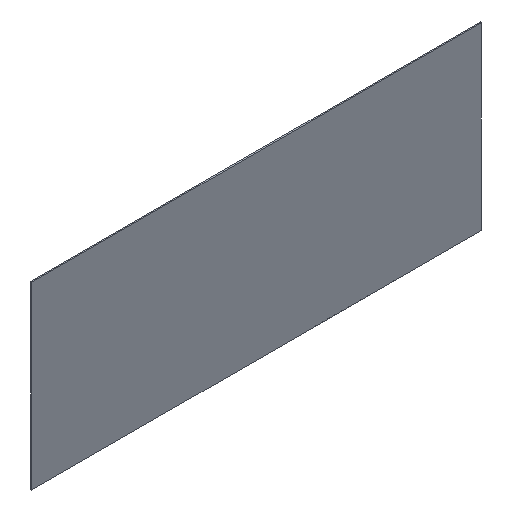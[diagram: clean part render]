
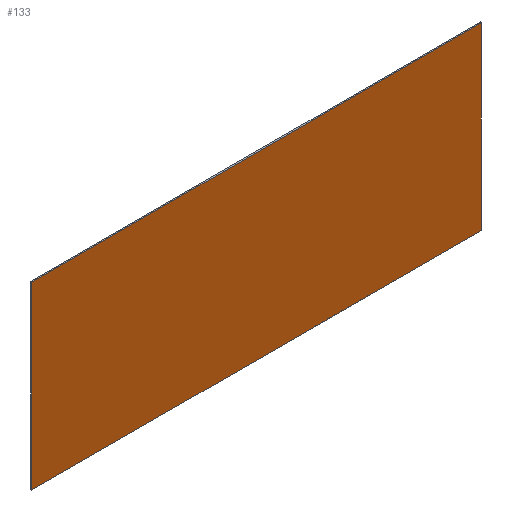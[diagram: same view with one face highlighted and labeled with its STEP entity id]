
A CAD part, isometric view. The second image highlights one B-rep face of the part: STEP entity #133.
In plain terms, the highlighted planar face has unit normal (0, -1, 0).
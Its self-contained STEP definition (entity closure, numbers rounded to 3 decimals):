
#21 = EDGE_CURVE('',#22,#24,#26,.T.);
#22 = VERTEX_POINT('',#23);
#23 = CARTESIAN_POINT('',(-25.,13.2,10.));
#24 = VERTEX_POINT('',#25);
#25 = CARTESIAN_POINT('',(-25.,13.2,-10.));
#26 = SURFACE_CURVE('',#27,(#31,#43),.PCURVE_S1.);
#27 = LINE('',#28,#29);
#28 = CARTESIAN_POINT('',(-25.,13.2,0.));
#29 = VECTOR('',#30,1.);
#30 = DIRECTION('',(0.,0.,-1.));
#31 = PCURVE('',#32,#37);
#32 = PLANE('',#33);
#33 = AXIS2_PLACEMENT_3D('',#34,#35,#36);
#34 = CARTESIAN_POINT('',(-25.,13.2,20.));
#35 = DIRECTION('',(-1.,0.,-0.));
#36 = DIRECTION('',(0.,0.,-1.));
#37 = DEFINITIONAL_REPRESENTATION('',(#38),#42);
#38 = LINE('',#39,#40);
#39 = CARTESIAN_POINT('',(20.,0.));
#40 = VECTOR('',#41,1.);
#41 = DIRECTION('',(1.,0.));
#42 = ( GEOMETRIC_REPRESENTATION_CONTEXT(2) 
PARAMETRIC_REPRESENTATION_CONTEXT() REPRESENTATION_CONTEXT('2D SPACE',''
  ) );
#43 = PCURVE('',#44,#49);
#44 = PLANE('',#45);
#45 = AXIS2_PLACEMENT_3D('',#46,#47,#48);
#46 = CARTESIAN_POINT('',(0.,13.2,0.));
#47 = DIRECTION('',(0.,1.,0.));
#48 = DIRECTION('',(1.,0.,0.));
#49 = DEFINITIONAL_REPRESENTATION('',(#50),#54);
#50 = LINE('',#51,#52);
#51 = CARTESIAN_POINT('',(-25.,0.));
#52 = VECTOR('',#53,1.);
#53 = DIRECTION('',(0.,1.));
#54 = ( GEOMETRIC_REPRESENTATION_CONTEXT(2) 
PARAMETRIC_REPRESENTATION_CONTEXT() REPRESENTATION_CONTEXT('2D SPACE',''
  ) );
#71 = PLANE('',#72);
#72 = AXIS2_PLACEMENT_3D('',#73,#74,#75);
#73 = CARTESIAN_POINT('',(-28.,12.5,10.));
#74 = DIRECTION('',(0.,0.,1.));
#75 = DIRECTION('',(1.,0.,0.));
#123 = PLANE('',#124);
#124 = AXIS2_PLACEMENT_3D('',#125,#126,#127);
#125 = CARTESIAN_POINT('',(-28.,12.5,-10.));
#126 = DIRECTION('',(0.,0.,1.));
#127 = DIRECTION('',(1.,0.,0.));
#133 = ADVANCED_FACE('',(#134),#44,.F.);
#134 = FACE_BOUND('',#135,.F.);
#135 = EDGE_LOOP('',(#136,#137,#158,#186));
#136 = ORIENTED_EDGE('',*,*,#21,.F.);
#137 = ORIENTED_EDGE('',*,*,#138,.T.);
#138 = EDGE_CURVE('',#22,#139,#141,.T.);
#139 = VERTEX_POINT('',#140);
#140 = CARTESIAN_POINT('',(25.,13.2,10.));
#141 = SURFACE_CURVE('',#142,(#146,#152),.PCURVE_S1.);
#142 = LINE('',#143,#144);
#143 = CARTESIAN_POINT('',(-14.,13.2,10.));
#144 = VECTOR('',#145,1.);
#145 = DIRECTION('',(1.,0.,0.));
#146 = PCURVE('',#44,#147);
#147 = DEFINITIONAL_REPRESENTATION('',(#148),#151);
#148 = B_SPLINE_CURVE_WITH_KNOTS('',1,(#149,#150),.UNSPECIFIED.,.F.,.F.,
  (2,2),(-11.,39.),.PIECEWISE_BEZIER_KNOTS.);
#149 = CARTESIAN_POINT('',(-25.,-10.));
#150 = CARTESIAN_POINT('',(25.,-10.));
#151 = ( GEOMETRIC_REPRESENTATION_CONTEXT(2) 
PARAMETRIC_REPRESENTATION_CONTEXT() REPRESENTATION_CONTEXT('2D SPACE',''
  ) );
#152 = PCURVE('',#71,#153);
#153 = DEFINITIONAL_REPRESENTATION('',(#154),#157);
#154 = B_SPLINE_CURVE_WITH_KNOTS('',1,(#155,#156),.UNSPECIFIED.,.F.,.F.,
  (2,2),(-11.,39.),.PIECEWISE_BEZIER_KNOTS.);
#155 = CARTESIAN_POINT('',(3.,0.7));
#156 = CARTESIAN_POINT('',(53.,0.7));
#157 = ( GEOMETRIC_REPRESENTATION_CONTEXT(2) 
PARAMETRIC_REPRESENTATION_CONTEXT() REPRESENTATION_CONTEXT('2D SPACE',''
  ) );
#158 = ORIENTED_EDGE('',*,*,#159,.T.);
#159 = EDGE_CURVE('',#139,#160,#162,.T.);
#160 = VERTEX_POINT('',#161);
#161 = CARTESIAN_POINT('',(25.,13.2,-10.));
#162 = SURFACE_CURVE('',#163,(#167,#174),.PCURVE_S1.);
#163 = LINE('',#164,#165);
#164 = CARTESIAN_POINT('',(25.,13.2,0.));
#165 = VECTOR('',#166,1.);
#166 = DIRECTION('',(0.,0.,-1.));
#167 = PCURVE('',#44,#168);
#168 = DEFINITIONAL_REPRESENTATION('',(#169),#173);
#169 = LINE('',#170,#171);
#170 = CARTESIAN_POINT('',(25.,0.));
#171 = VECTOR('',#172,1.);
#172 = DIRECTION('',(0.,1.));
#173 = ( GEOMETRIC_REPRESENTATION_CONTEXT(2) 
PARAMETRIC_REPRESENTATION_CONTEXT() REPRESENTATION_CONTEXT('2D SPACE',''
  ) );
#174 = PCURVE('',#175,#180);
#175 = PLANE('',#176);
#176 = AXIS2_PLACEMENT_3D('',#177,#178,#179);
#177 = CARTESIAN_POINT('',(25.,13.2,20.));
#178 = DIRECTION('',(-1.,0.,-0.));
#179 = DIRECTION('',(0.,0.,-1.));
#180 = DEFINITIONAL_REPRESENTATION('',(#181),#185);
#181 = LINE('',#182,#183);
#182 = CARTESIAN_POINT('',(20.,0.));
#183 = VECTOR('',#184,1.);
#184 = DIRECTION('',(1.,0.));
#185 = ( GEOMETRIC_REPRESENTATION_CONTEXT(2) 
PARAMETRIC_REPRESENTATION_CONTEXT() REPRESENTATION_CONTEXT('2D SPACE',''
  ) );
#186 = ORIENTED_EDGE('',*,*,#187,.F.);
#187 = EDGE_CURVE('',#24,#160,#188,.T.);
#188 = SURFACE_CURVE('',#189,(#193,#199),.PCURVE_S1.);
#189 = LINE('',#190,#191);
#190 = CARTESIAN_POINT('',(-14.,13.2,-10.));
#191 = VECTOR('',#192,1.);
#192 = DIRECTION('',(1.,0.,0.));
#193 = PCURVE('',#44,#194);
#194 = DEFINITIONAL_REPRESENTATION('',(#195),#198);
#195 = B_SPLINE_CURVE_WITH_KNOTS('',1,(#196,#197),.UNSPECIFIED.,.F.,.F.,
  (2,2),(-11.,39.),.PIECEWISE_BEZIER_KNOTS.);
#196 = CARTESIAN_POINT('',(-25.,10.));
#197 = CARTESIAN_POINT('',(25.,10.));
#198 = ( GEOMETRIC_REPRESENTATION_CONTEXT(2) 
PARAMETRIC_REPRESENTATION_CONTEXT() REPRESENTATION_CONTEXT('2D SPACE',''
  ) );
#199 = PCURVE('',#123,#200);
#200 = DEFINITIONAL_REPRESENTATION('',(#201),#204);
#201 = B_SPLINE_CURVE_WITH_KNOTS('',1,(#202,#203),.UNSPECIFIED.,.F.,.F.,
  (2,2),(-11.,39.),.PIECEWISE_BEZIER_KNOTS.);
#202 = CARTESIAN_POINT('',(3.,0.7));
#203 = CARTESIAN_POINT('',(53.,0.7));
#204 = ( GEOMETRIC_REPRESENTATION_CONTEXT(2) 
PARAMETRIC_REPRESENTATION_CONTEXT() REPRESENTATION_CONTEXT('2D SPACE',''
  ) );
